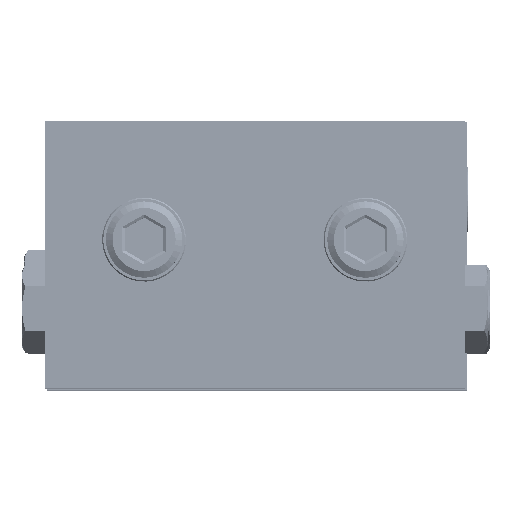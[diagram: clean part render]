
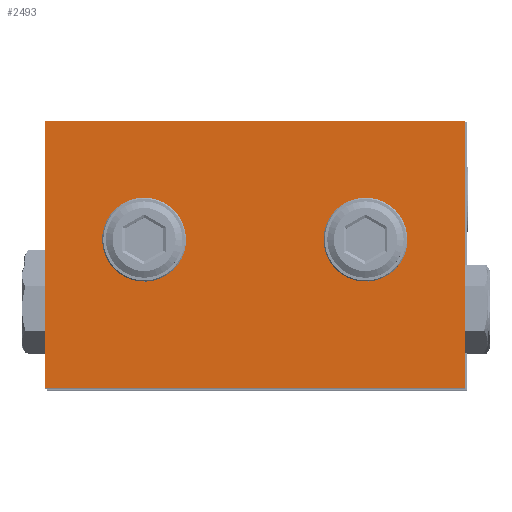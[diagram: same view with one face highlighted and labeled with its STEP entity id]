
A CAD part, top view. The second image highlights one B-rep face of the part: STEP entity #2493.
In plain terms, the highlighted planar face has unit normal (0, 0, 1) as drawn and (0, 0, -1) by its records, which use the part's own axes.
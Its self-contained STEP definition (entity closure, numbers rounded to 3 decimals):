
#407 = EDGE_CURVE ( 'NONE', #4254, #14886, #22678, .T. ) ;
#1220 = VERTEX_POINT ( 'NONE', #26787 ) ;
#1682 = PLANE ( 'NONE',  #10079 ) ;
#2094 = CARTESIAN_POINT ( 'NONE',  ( -27.5, -35., -4.85 ) ) ;
#2493 = ADVANCED_FACE ( 'NONE', ( #18947, #31006, #13706 ), #1682, .F. ) ;
#2734 = DIRECTION ( 'NONE',  ( -1., 0., 0. ) ) ;
#3614 = CARTESIAN_POINT ( 'NONE',  ( 27.5, 0., -4.85 ) ) ;
#4254 = VERTEX_POINT ( 'NONE', #24547 ) ;
#5154 = VECTOR ( 'NONE', #2734, 1000. ) ;
#5523 = AXIS2_PLACEMENT_3D ( 'NONE', #18810, #35757, #21468 ) ;
#7753 = ORIENTED_EDGE ( 'NONE', *, *, #33612, .F. ) ;
#7891 = DIRECTION ( 'NONE',  ( 1., 0., 0. ) ) ;
#8406 = DIRECTION ( 'NONE',  ( 0., -1., 0. ) ) ;
#8434 = DIRECTION ( 'NONE',  ( 1., 0., 0. ) ) ;
#8449 = CARTESIAN_POINT ( 'NONE',  ( -11.4, -15.5, -4.85 ) ) ;
#8539 = VERTEX_POINT ( 'NONE', #27626 ) ;
#8601 = LINE ( 'NONE', #31336, #5154 ) ;
#9636 = DIRECTION ( 'NONE',  ( 1., 0., 0. ) ) ;
#9825 = CARTESIAN_POINT ( 'NONE',  ( 0., -35., -4.85 ) ) ;
#10079 = AXIS2_PLACEMENT_3D ( 'NONE', #27612, #22173, #7891 ) ;
#11004 = CARTESIAN_POINT ( 'NONE',  ( -27.5, 0., -4.85 ) ) ;
#11725 = EDGE_LOOP ( 'NONE', ( #22083 ) ) ;
#12748 = VECTOR ( 'NONE', #8406, 1000. ) ;
#13375 = EDGE_CURVE ( 'NONE', #28737, #28737, #23844, .T. ) ;
#13706 = FACE_OUTER_BOUND ( 'NONE', #17030, .T. ) ;
#14886 = VERTEX_POINT ( 'NONE', #2094 ) ;
#15094 = DIRECTION ( 'NONE',  ( 0., 1., 0. ) ) ;
#17030 = EDGE_LOOP ( 'NONE', ( #21892, #37137, #7753, #30523 ) ) ;
#17417 = DIRECTION ( 'NONE',  ( 0., 0., -1. ) ) ;
#17721 = VECTOR ( 'NONE', #15094, 1000. ) ;
#18810 = CARTESIAN_POINT ( 'NONE',  ( 14.5, -15.5, -4.85 ) ) ;
#18947 = FACE_BOUND ( 'NONE', #19834, .T. ) ;
#19834 = EDGE_LOOP ( 'NONE', ( #22580 ) ) ;
#21468 = DIRECTION ( 'NONE',  ( -1., 0., 0. ) ) ;
#21892 = ORIENTED_EDGE ( 'NONE', *, *, #27862, .F. ) ;
#22083 = ORIENTED_EDGE ( 'NONE', *, *, #33590, .F. ) ;
#22173 = DIRECTION ( 'NONE',  ( 0., 0., 1. ) ) ;
#22580 = ORIENTED_EDGE ( 'NONE', *, *, #13375, .F. ) ;
#22678 = LINE ( 'NONE', #11004, #12748 ) ;
#23844 = CIRCLE ( 'NONE', #30443, 3.1 ) ;
#24547 = CARTESIAN_POINT ( 'NONE',  ( -27.5, 0., -4.85 ) ) ;
#25538 = CARTESIAN_POINT ( 'NONE',  ( -14.5, -15.5, -4.85 ) ) ;
#26787 = CARTESIAN_POINT ( 'NONE',  ( 11.4, -15.5, -4.85 ) ) ;
#27612 = CARTESIAN_POINT ( 'NONE',  ( 0., 0., -4.85 ) ) ;
#27626 = CARTESIAN_POINT ( 'NONE',  ( 27.5, 0., -4.85 ) ) ;
#27667 = LINE ( 'NONE', #9825, #34350 ) ;
#27708 = CIRCLE ( 'NONE', #5523, 3.1 ) ;
#27862 = EDGE_CURVE ( 'NONE', #8539, #4254, #8601, .T. ) ;
#28737 = VERTEX_POINT ( 'NONE', #8449 ) ;
#29372 = LINE ( 'NONE', #3614, #17721 ) ;
#29419 = CARTESIAN_POINT ( 'NONE',  ( 27.5, -35., -4.85 ) ) ;
#30443 = AXIS2_PLACEMENT_3D ( 'NONE', #25538, #17417, #8434 ) ;
#30523 = ORIENTED_EDGE ( 'NONE', *, *, #407, .F. ) ;
#30599 = EDGE_CURVE ( 'NONE', #36071, #8539, #29372, .T. ) ;
#31006 = FACE_BOUND ( 'NONE', #11725, .T. ) ;
#31336 = CARTESIAN_POINT ( 'NONE',  ( 0., 0., -4.85 ) ) ;
#33590 = EDGE_CURVE ( 'NONE', #1220, #1220, #27708, .T. ) ;
#33612 = EDGE_CURVE ( 'NONE', #14886, #36071, #27667, .T. ) ;
#34350 = VECTOR ( 'NONE', #9636, 1000. ) ;
#35757 = DIRECTION ( 'NONE',  ( 0., 0., -1. ) ) ;
#36071 = VERTEX_POINT ( 'NONE', #29419 ) ;
#37137 = ORIENTED_EDGE ( 'NONE', *, *, #30599, .F. ) ;
